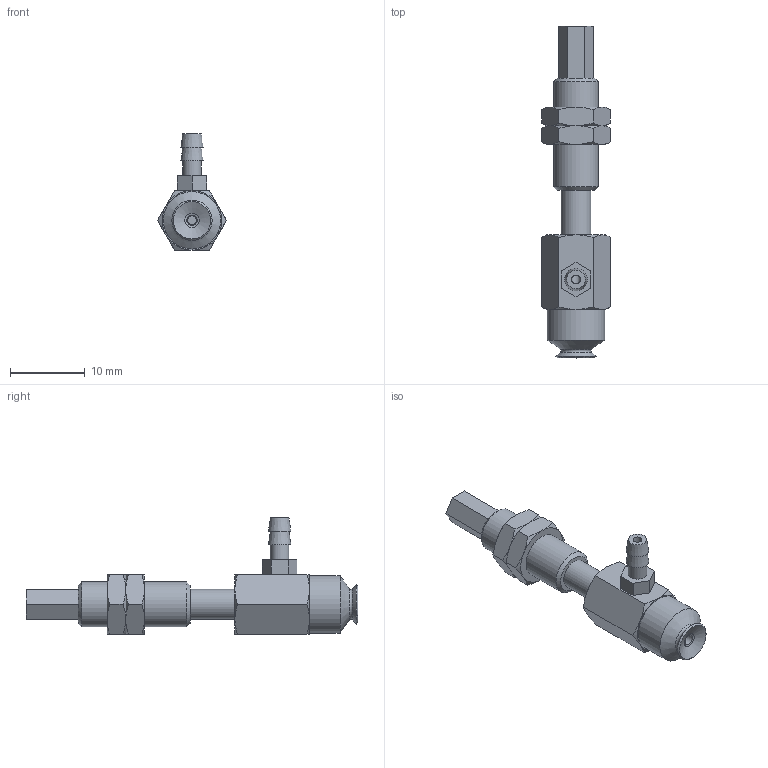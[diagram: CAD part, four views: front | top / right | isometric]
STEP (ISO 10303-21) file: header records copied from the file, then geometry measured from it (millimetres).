
FILE_DESCRIPTION(('STEP AP203'),'1');
FILE_NAME('-T.stp','2025-04-09T05:34:13',(' '),(' '),'Spatial InterOp 3D',' ',' ');
FILE_SCHEMA(('CONFIG_CONTROL_DESIGN'));
Length unit declared in the file: millimetre
Products named in the file (7): BNABPFYS-5A-6-※-T; CONNECTOR-5A-6; Nut-5A-6-s; NAPFTS-5A-6-FBODY; NAPFTS-5A-6-MBODY; BPFG-5A-※; T (2)
Assembly tree (7 placements, depth 2):
  BNABPFYS-5A-6-※-T
    CONNECTOR-5A-6
    Nut-5A-6-s  x2
    NAPFTS-5A-6-FBODY
    NAPFTS-5A-6-MBODY
    BPFG-5A-※
    T (2)
Bounding box: 9.24 x 44.5 x 15.6 mm (x, y, z)
Volume: 1548.9 mm3; surface area: 2378.6 mm2
Topology: 7 solids, 7 shells, 149 faces, 314 edges, 189 vertices
Faces by surface type: plane 68, cone 55, cylinder 18, torus 7, bspline 1
Full cylindrical faces by diameter (mm): 1.2 x2, 1.4 x1, 2.459 x2, 2.5 x1, 3 x2, 4 x4, 5.188 x2, 6 x3, 7.7 x1
Entity records: 3675 total; most frequent: CARTESIAN_POINT 851, DIRECTION 520, ORIENTED_EDGE 436, AXIS2_PLACEMENT_3D 223, EDGE_CURVE 218, EDGE_LOOP 188, VERTEX_POINT 154, FACE_OUTER_BOUND 151
